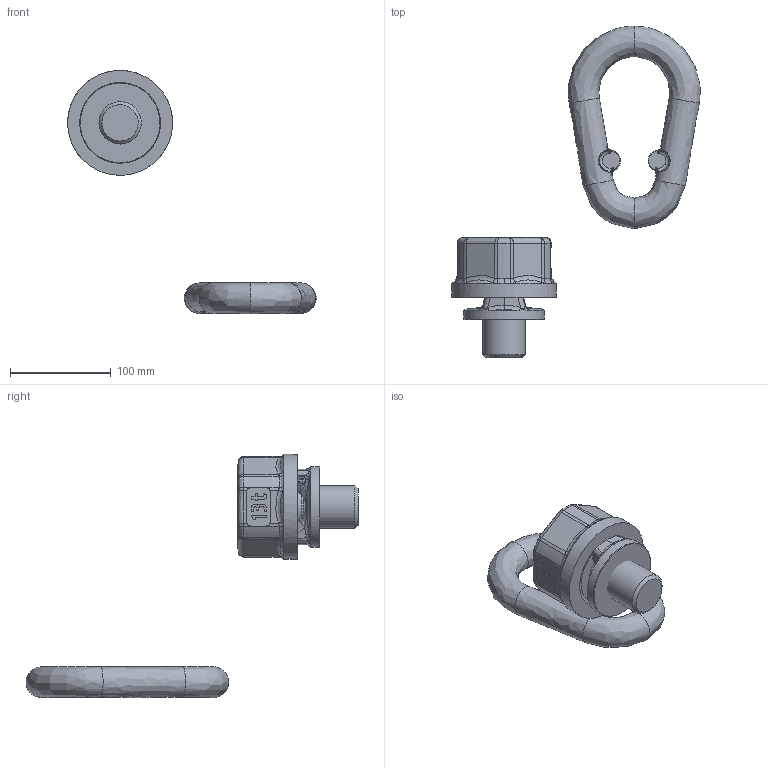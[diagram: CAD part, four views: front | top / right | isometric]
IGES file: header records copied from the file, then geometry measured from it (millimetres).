
Global section: file name: C:\ideas\IDEAS-Daten\temp\TP_Iges\TP17_M42x60_senkrecht.igs; preprocessor: I-DEAS 3D IGES Translator 11; date: 20090205.125047; units: millimetre
Bounding box: 246.45 x 329.18 x 241.11 mm (x, y, z)
Volume: 969026.3 mm3; surface area: 109516.3 mm2
Topology: 3 solids, 3 shells, 680 faces, 1693 edges, 1024 vertices
Faces by surface type: bspline 680
